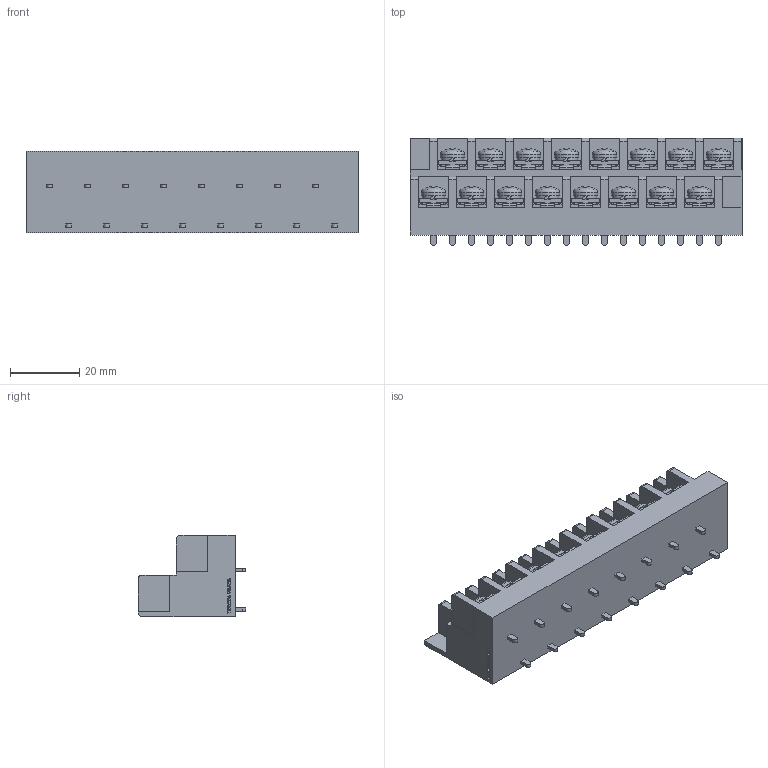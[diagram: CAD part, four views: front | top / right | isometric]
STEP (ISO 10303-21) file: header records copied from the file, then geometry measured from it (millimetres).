
FILE_DESCRIPTION(/* description */ ('Alibre Inc.'),/* implementation_level */ '2;1');
FILE_NAME(/* name */ 'export0',/* time_stamp */ '2016-08-05T11:54:40+09:00',/* author */ (''),/* organization */ (''),/* preprocessor_version */ 'ST-DEVELOPER v14',/* originating_system */ 'Alibre',/* authorisation */ '');
FILE_SCHEMA (('CONFIG_CONTROL_DESIGN'));
Length unit declared in the file: centimetre
Products named in the file (1): ID_1
Bounding box: 96.1 x 31 x 23.5 mm (x, y, z)
Volume: 40571.3 mm3; surface area: 18932.8 mm2
Topology: 1 solids, 145 shells, 3377 faces, 8825 edges, 5814 vertices
Faces by surface type: plane 2614, bspline 520, cylinder 131, cone 64, torus 32, sphere 16
Full cylindrical faces by diameter (mm): 4 x16, 7 x16
Entity records: 98476 total; most frequent: CARTESIAN_POINT 22665, ORIENTED_EDGE 17618, DIRECTION 10989, EDGE_CURVE 8745, VECTOR 6591, LINE 6591, VERTEX_POINT 5798, EDGE_LOOP 3653
